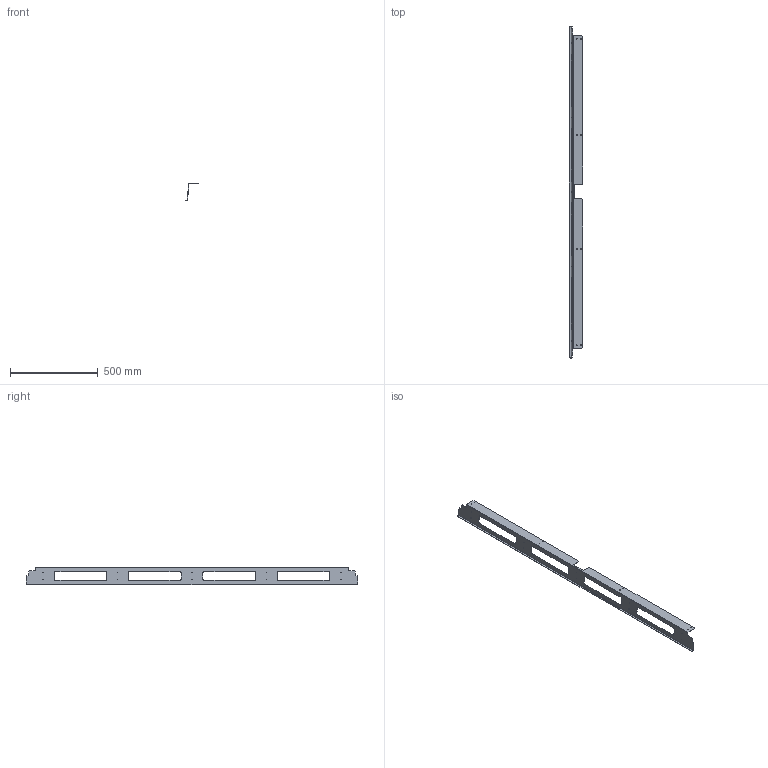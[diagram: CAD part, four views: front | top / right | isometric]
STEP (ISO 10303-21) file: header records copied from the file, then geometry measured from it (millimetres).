
FILE_DESCRIPTION (( 'STEP AP203' ), '1' );
FILE_NAME ('EUP0144.STEP', '2018-07-03T12:49:17', ( '' ), ( '' ), 'SwSTEP 2.0', 'SolidWorks 2017', '' );
FILE_SCHEMA (( 'CONFIG_CONTROL_DESIGN' ));
Length unit declared in the file: millimetre
Products named in the file (1): EUP0144
Bounding box: 78.45 x 1895 x 97.88 mm (x, y, z)
Volume: 325371.3 mm3; surface area: 491696.4 mm2
Topology: 1 solids, 1 shells, 112 faces, 314 edges, 204 vertices
Faces by surface type: cylinder 56, plane 56
Entity records: 3787 total; most frequent: DIRECTION 652, CARTESIAN_POINT 631, ORIENTED_EDGE 628, EDGE_CURVE 314, AXIS2_PLACEMENT_3D 225, VERTEX_POINT 204, VECTOR 202, LINE 202
